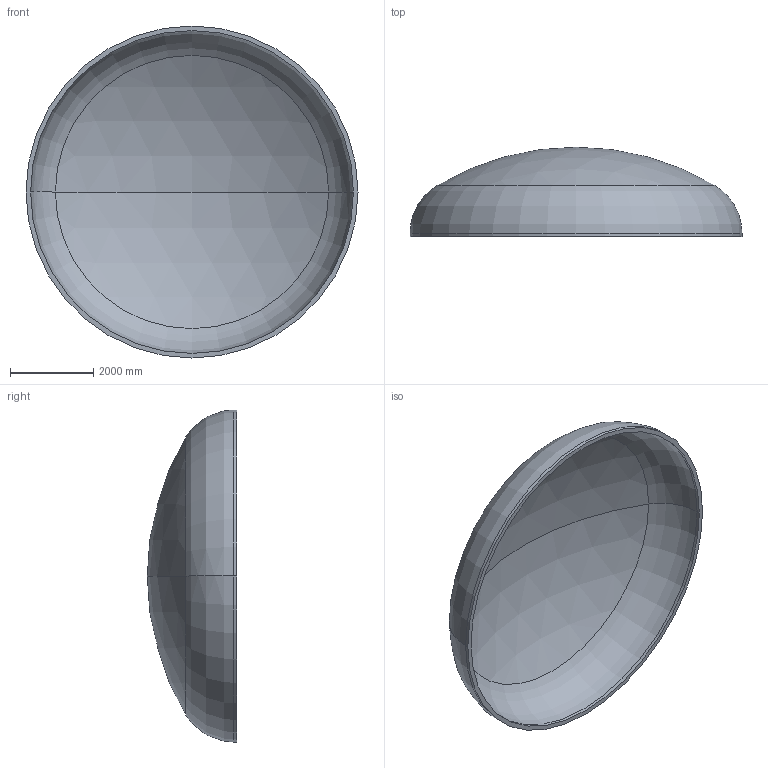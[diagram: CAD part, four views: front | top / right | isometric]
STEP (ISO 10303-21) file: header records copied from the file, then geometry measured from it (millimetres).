
FILE_DESCRIPTION (( 'STEP AP203' ), '1' );
FILE_NAME ('DIN 28013 Korbbogenform_-_Boden DIN 28013 - 8000 x 75 - I - s=110.step', '2016-07-04T11:05:42', ( '' ), ( '' ), 'SwSTEP 2.0', 'SolidWorks 2013', '' );
FILE_SCHEMA (( 'CONFIG_CONTROL_DESIGN' ));
Length unit declared in the file: millimetre
Products named in the file (1): DIN 28013 Korbbogenform_-_Boden DIN 28013 - 8000 x 75 - I - s=110
Bounding box: 8000 x 2151.8 x 8000 mm (x, y, z)
Volume: 7722077399 mm3; surface area: 143153283.4 mm2
Topology: 1 solids, 1 shells, 13 faces, 24 edges, 14 vertices
Faces by surface type: torus 4, cylinder 4, sphere 4, plane 1
Entity records: 407 total; most frequent: DIRECTION 72, CARTESIAN_POINT 52, ORIENTED_EDGE 48, AXIS2_PLACEMENT_3D 34, EDGE_CURVE 24, CIRCLE 20, VERTEX_POINT 14, EDGE_LOOP 14
